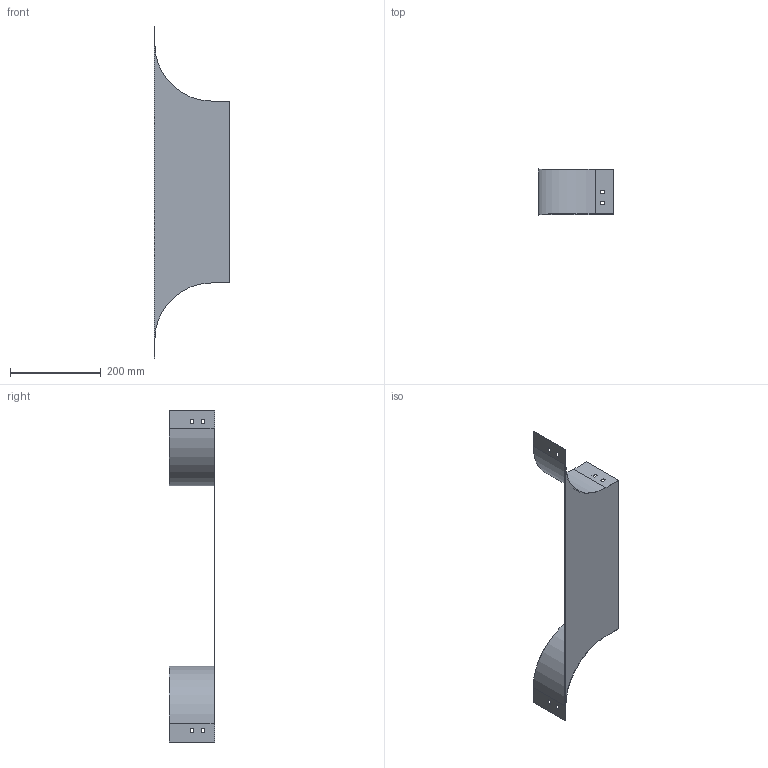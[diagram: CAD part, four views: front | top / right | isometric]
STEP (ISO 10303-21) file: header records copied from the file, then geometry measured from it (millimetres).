
FILE_DESCRIPTION (( 'STEP AP214' ), '1' );
FILE_NAME ('RL_401.step', '2025-07-16T09:25:28', ( '' ), ( '' ), 'SwSTEP 2.0', 'SolidWorks 2023', '' );
FILE_SCHEMA (( 'AUTOMOTIVE_DESIGN' ));
Length unit declared in the file: millimetre
Products named in the file (1): RL_401
Bounding box: 166.5 x 100 x 730 mm (x, y, z)
Volume: 191871.4 mm3; surface area: 259356.1 mm2
Topology: 1 solids, 1 shells, 50 faces, 144 edges, 96 vertices
Faces by surface type: plane 46, cylinder 4
Entity records: 1671 total; most frequent: CARTESIAN_POINT 291, ORIENTED_EDGE 288, DIRECTION 254, EDGE_CURVE 144, LINE 136, VECTOR 136, VERTEX_POINT 96, EDGE_LOOP 66
